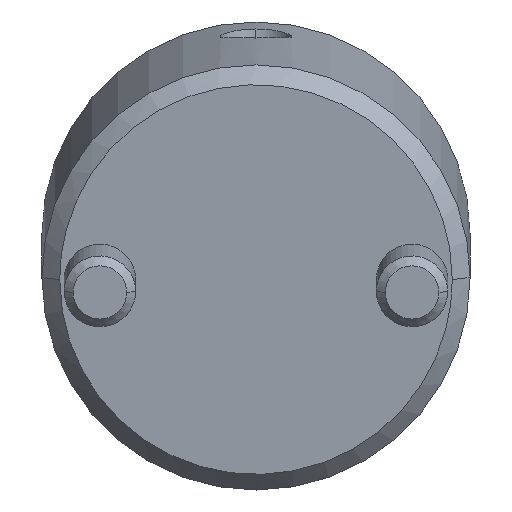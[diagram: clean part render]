
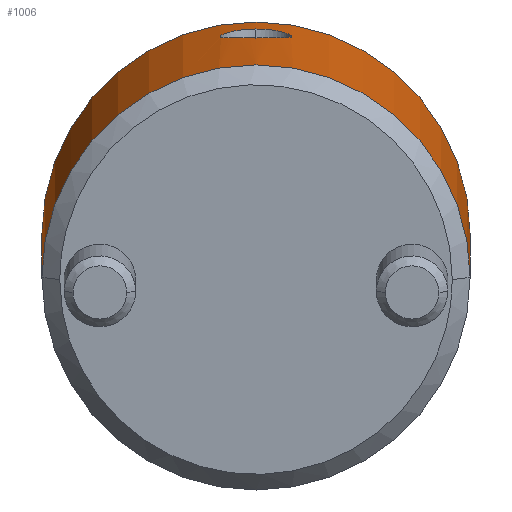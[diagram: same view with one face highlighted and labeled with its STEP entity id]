
A CAD part, top view. The second image highlights one B-rep face of the part: STEP entity #1006.
In plain terms, the highlighted cylindrical face has radius 12 mm (diameter 24 mm), a partial arc.
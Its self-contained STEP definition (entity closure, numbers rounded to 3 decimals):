
#778=CARTESIAN_POINT('Vertex',(0.,12.,1.)) ;
#781=CARTESIAN_POINT('Axis2P3D Location',(0.,0.,1.)) ;
#785=CARTESIAN_POINT('Vertex',(0.,-12.,1.)) ;
#925=CARTESIAN_POINT('Axis2P3D Location',(0.,0.,-1.1)) ;
#930=CARTESIAN_POINT('Line Origine',(0.,12.,-1.1)) ;
#934=CARTESIAN_POINT('Vertex',(0.,12.,21.)) ;
#937=CARTESIAN_POINT('Axis2P3D Location',(0.,0.,21.)) ;
#941=CARTESIAN_POINT('Vertex',(0.,-12.,21.)) ;
#944=CARTESIAN_POINT('Line Origine',(0.,-12.,-1.1)) ;
#956=CARTESIAN_POINT('Control Point',(12.,0.,17.735)) ;
#957=CARTESIAN_POINT('Control Point',(12.,0.276,17.735)) ;
#958=CARTESIAN_POINT('Control Point',(11.992,0.546,17.688)) ;
#959=CARTESIAN_POINT('Control Point',(11.976,0.81,17.59)) ;
#960=CARTESIAN_POINT('Control Point',(11.945,1.172,17.381)) ;
#961=CARTESIAN_POINT('Control Point',(11.911,1.467,17.09)) ;
#962=CARTESIAN_POINT('Control Point',(11.899,1.558,16.983)) ;
#963=CARTESIAN_POINT('Control Point',(11.865,1.802,16.641)) ;
#964=CARTESIAN_POINT('Control Point',(11.84,1.955,16.246)) ;
#965=CARTESIAN_POINT('Control Point',(11.83,2.012,15.967)) ;
#966=CARTESIAN_POINT('Control Point',(11.828,2.024,15.476)) ;
#967=CARTESIAN_POINT('Control Point',(11.85,1.894,15.005)) ;
#968=CARTESIAN_POINT('Control Point',(11.863,1.813,14.815)) ;
#969=CARTESIAN_POINT('Control Point',(11.889,1.636,14.516)) ;
#970=CARTESIAN_POINT('Control Point',(11.918,1.402,14.263)) ;
#971=CARTESIAN_POINT('Control Point',(11.93,1.299,14.17)) ;
#972=CARTESIAN_POINT('Control Point',(11.96,1.008,13.95)) ;
#973=CARTESIAN_POINT('Control Point',(11.984,0.672,13.799)) ;
#974=CARTESIAN_POINT('Control Point',(11.995,0.452,13.736)) ;
#975=CARTESIAN_POINT('Control Point',(12.,0.228,13.705)) ;
#976=CARTESIAN_POINT('Control Point',(12.,0.,13.705)) ;
#977=CARTESIAN_POINT('Vertex',(12.,0.,17.735)) ;
#979=CARTESIAN_POINT('Vertex',(12.,0.,13.705)) ;
#983=CARTESIAN_POINT('Control Point',(12.,0.,13.705)) ;
#984=CARTESIAN_POINT('Control Point',(12.,-0.278,13.705)) ;
#985=CARTESIAN_POINT('Control Point',(11.992,-0.551,13.752)) ;
#986=CARTESIAN_POINT('Control Point',(11.976,-0.821,13.848)) ;
#987=CARTESIAN_POINT('Control Point',(11.923,-1.429,14.193)) ;
#988=CARTESIAN_POINT('Control Point',(11.86,-1.845,14.767)) ;
#989=CARTESIAN_POINT('Control Point',(11.832,-1.999,15.173)) ;
#990=CARTESIAN_POINT('Control Point',(11.822,-2.06,15.811)) ;
#991=CARTESIAN_POINT('Control Point',(11.851,-1.886,16.419)) ;
#992=CARTESIAN_POINT('Control Point',(11.864,-1.803,16.612)) ;
#993=CARTESIAN_POINT('Control Point',(11.891,-1.623,16.916)) ;
#994=CARTESIAN_POINT('Control Point',(11.92,-1.386,17.173)) ;
#995=CARTESIAN_POINT('Control Point',(11.932,-1.283,17.267)) ;
#996=CARTESIAN_POINT('Control Point',(11.961,-0.994,17.488)) ;
#997=CARTESIAN_POINT('Control Point',(11.984,-0.662,17.64)) ;
#998=CARTESIAN_POINT('Control Point',(11.995,-0.446,17.704)) ;
#999=CARTESIAN_POINT('Control Point',(12.,-0.225,17.735)) ;
#1000=CARTESIAN_POINT('Control Point',(12.,0.,17.735)) ;
#782=DIRECTION('Axis2P3D Direction',(0.,0.,1.)) ;
#926=DIRECTION('Axis2P3D Direction',(0.,-0.,1.)) ;
#927=DIRECTION('Axis2P3D XDirection',(0.,-1.,0.)) ;
#931=DIRECTION('Vector Direction',(0.,0.,1.)) ;
#938=DIRECTION('Axis2P3D Direction',(0.,-0.,1.)) ;
#945=DIRECTION('Vector Direction',(0.,0.,1.)) ;
#783=AXIS2_PLACEMENT_3D('Circle Axis2P3D',#781,#782,$) ;
#928=AXIS2_PLACEMENT_3D('Cylinder Axis2P3D',#925,#926,#927) ;
#939=AXIS2_PLACEMENT_3D('Circle Axis2P3D',#937,#938,$) ;
#950=ORIENTED_EDGE('',*,*,#936,.F.) ;
#951=ORIENTED_EDGE('',*,*,#943,.T.) ;
#952=ORIENTED_EDGE('',*,*,#948,.T.) ;
#953=ORIENTED_EDGE('',*,*,#787,.F.) ;
#1003=ORIENTED_EDGE('',*,*,#981,.T.) ;
#1004=ORIENTED_EDGE('',*,*,#1001,.T.) ;
#1005=FACE_BOUND('',#1002,.T.) ;
#932=VECTOR('Line Direction',#931,1.) ;
#946=VECTOR('Line Direction',#945,1.) ;
#1006=ADVANCED_FACE('MANIFOLD_SOLID_BREP #1097',(#954,#1005),#929,.T.) ;
#955=B_SPLINE_CURVE_WITH_KNOTS('',5,(#956,#957,#958,#959,#960,#961,#962,#963,#964,#965,#966,#967,#968,#969,#970,#971,#972,#973,#974,#975,#976),.UNSPECIFIED.,.F.,.U.,(6,3,3,3,3,3,6),(0.,1.942,2.934,4.901,6.365,7.343,8.945),.UNSPECIFIED.) ;
#982=B_SPLINE_CURVE_WITH_KNOTS('',5,(#983,#984,#985,#986,#987,#988,#989,#990,#991,#992,#993,#994,#995,#996,#997,#998,#999,#1000),.UNSPECIFIED.,.F.,.U.,(6,3,3,3,3,6),(0.,1.959,4.891,6.374,7.362,8.944),.UNSPECIFIED.) ;
#784=CIRCLE('generated circle',#783,12.) ;
#940=CIRCLE('generated circle',#939,12.) ;
#929=CYLINDRICAL_SURFACE('generated cylinder',#928,12.) ;
#787=EDGE_CURVE('',#779,#786,#784,.F.) ;
#936=EDGE_CURVE('',#935,#779,#933,.F.) ;
#943=EDGE_CURVE('',#935,#942,#940,.F.) ;
#948=EDGE_CURVE('',#942,#786,#947,.F.) ;
#981=EDGE_CURVE('',#978,#980,#955,.T.) ;
#1001=EDGE_CURVE('',#980,#978,#982,.T.) ;
#949=EDGE_LOOP('',(#950,#951,#952,#953)) ;
#1002=EDGE_LOOP('',(#1003,#1004)) ;
#954=FACE_OUTER_BOUND('',#949,.T.) ;
#933=LINE('Line',#930,#932) ;
#947=LINE('Line',#944,#946) ;
#779=VERTEX_POINT('',#778) ;
#786=VERTEX_POINT('',#785) ;
#935=VERTEX_POINT('',#934) ;
#942=VERTEX_POINT('',#941) ;
#978=VERTEX_POINT('',#977) ;
#980=VERTEX_POINT('',#979) ;
